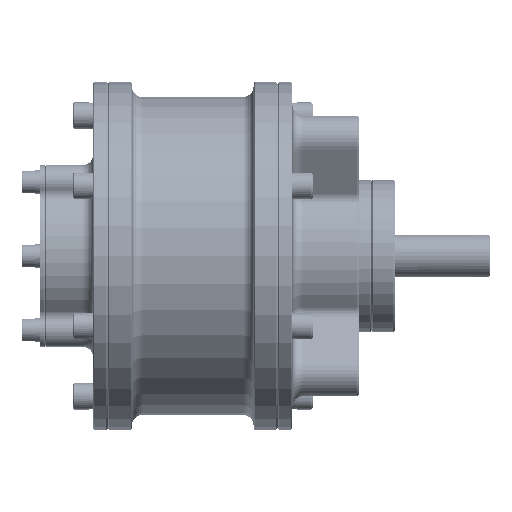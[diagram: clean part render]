
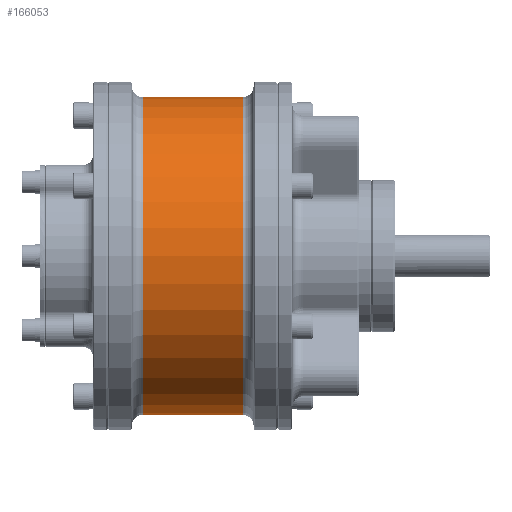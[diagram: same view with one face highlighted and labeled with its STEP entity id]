
A CAD part, front view. The second image highlights one B-rep face of the part: STEP entity #166053.
In plain terms, the highlighted cylindrical face has radius 59.5 mm (diameter 119 mm), a partial arc.
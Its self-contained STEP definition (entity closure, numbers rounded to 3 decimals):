
#12157 = CARTESIAN_POINT ( 'NONE',  ( -18.75, 0., -59.5 ) ) ;
#18569 = VECTOR ( 'NONE', #89487, 1000. ) ;
#40127 = DIRECTION ( 'NONE',  ( 0., 0., -1. ) ) ;
#58228 = VERTEX_POINT ( 'NONE', #211996 ) ;
#65801 = EDGE_CURVE ( 'NONE', #92776, #213160, #216503, .T. ) ;
#74871 = EDGE_CURVE ( 'NONE', #173126, #58228, #200529, .T. ) ;
#74899 = DIRECTION ( 'NONE',  ( -1., 0., 0. ) ) ;
#76226 = CARTESIAN_POINT ( 'NONE',  ( -18.75, 0., 59.5 ) ) ;
#89487 = DIRECTION ( 'NONE',  ( 1., 0., 0. ) ) ;
#92631 = CARTESIAN_POINT ( 'NONE',  ( -22.75, 0., 59.5 ) ) ;
#92776 = VERTEX_POINT ( 'NONE', #76226 ) ;
#94683 = DIRECTION ( 'NONE',  ( 0., 0., -1. ) ) ;
#97689 = CARTESIAN_POINT ( 'NONE',  ( 18.75, 0., 59.5 ) ) ;
#97848 = CIRCLE ( 'NONE', #187412, 59.5 ) ;
#99380 = CARTESIAN_POINT ( 'NONE',  ( -18.75, 0., 0. ) ) ;
#100487 = CIRCLE ( 'NONE', #147692, 59.5 ) ;
#118326 = DIRECTION ( 'NONE',  ( 0., 0., -1. ) ) ;
#130817 = CARTESIAN_POINT ( 'NONE',  ( -22.75, 0., -59.5 ) ) ;
#147692 = AXIS2_PLACEMENT_3D ( 'NONE', #254831, #74899, #94683 ) ;
#154957 = VECTOR ( 'NONE', #171138, 1000. ) ;
#160896 = ORIENTED_EDGE ( 'NONE', *, *, #200231, .T. ) ;
#162271 = ORIENTED_EDGE ( 'NONE', *, *, #65801, .F. ) ;
#165453 = EDGE_LOOP ( 'NONE', ( #162271, #160896, #197098, #250491 ) ) ;
#166053 = ADVANCED_FACE ( 'NONE', ( #199059 ), #174415, .T. ) ;
#171138 = DIRECTION ( 'NONE',  ( 1., 0., 0. ) ) ;
#173126 = VERTEX_POINT ( 'NONE', #12157 ) ;
#174415 = CYLINDRICAL_SURFACE ( 'NONE', #179928, 59.5 ) ;
#177012 = DIRECTION ( 'NONE',  ( 1., 0., 0. ) ) ;
#179928 = AXIS2_PLACEMENT_3D ( 'NONE', #197888, #216033, #40127 ) ;
#187412 = AXIS2_PLACEMENT_3D ( 'NONE', #99380, #177012, #118326 ) ;
#197098 = ORIENTED_EDGE ( 'NONE', *, *, #74871, .T. ) ;
#197888 = CARTESIAN_POINT ( 'NONE',  ( -22.75, 0., 0. ) ) ;
#199059 = FACE_OUTER_BOUND ( 'NONE', #165453, .T. ) ;
#200231 = EDGE_CURVE ( 'NONE', #92776, #173126, #97848, .T. ) ;
#200529 = LINE ( 'NONE', #130817, #18569 ) ;
#211996 = CARTESIAN_POINT ( 'NONE',  ( 18.75, 0., -59.5 ) ) ;
#213160 = VERTEX_POINT ( 'NONE', #97689 ) ;
#215157 = EDGE_CURVE ( 'NONE', #58228, #213160, #100487, .T. ) ;
#216033 = DIRECTION ( 'NONE',  ( 1., 0., 0. ) ) ;
#216503 = LINE ( 'NONE', #92631, #154957 ) ;
#250491 = ORIENTED_EDGE ( 'NONE', *, *, #215157, .T. ) ;
#254831 = CARTESIAN_POINT ( 'NONE',  ( 18.75, 0., 0. ) ) ;
